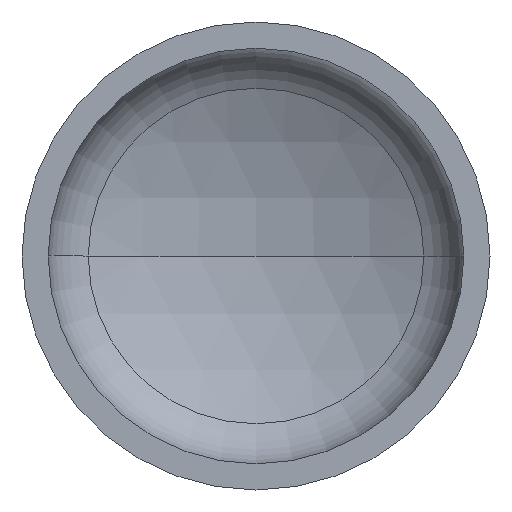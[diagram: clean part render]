
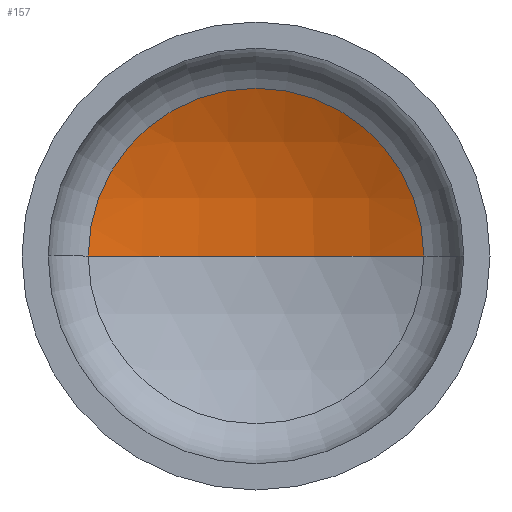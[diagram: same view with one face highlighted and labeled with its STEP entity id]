
A CAD part, front view. The second image highlights one B-rep face of the part: STEP entity #157.
In plain terms, the highlighted spherical face has radius 800 mm.
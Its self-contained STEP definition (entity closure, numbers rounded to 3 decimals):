
#18 = EDGE_LOOP ( 'NONE', ( #130, #125, #53 ) ) ;
#34 = VERTEX_POINT ( 'NONE', #357 ) ;
#53 = ORIENTED_EDGE ( 'NONE', *, *, #172, .T. ) ;
#66 = AXIS2_PLACEMENT_3D ( 'NONE', #212, #213, #250 ) ;
#71 = AXIS2_PLACEMENT_3D ( 'NONE', #232, #193, #202 ) ;
#83 = AXIS2_PLACEMENT_3D ( 'NONE', #293, #256, #207 ) ;
#114 = VERTEX_POINT ( 'NONE', #322 ) ;
#117 = AXIS2_PLACEMENT_3D ( 'NONE', #340, #331, #306 ) ;
#125 = ORIENTED_EDGE ( 'NONE', *, *, #173, .T. ) ;
#130 = ORIENTED_EDGE ( 'NONE', *, *, #174, .F. ) ;
#157 = ADVANCED_FACE ( 'NONE', ( #304 ), #245, .F. ) ;
#166 = VERTEX_POINT ( 'NONE', #200 ) ;
#171 = CIRCLE ( 'NONE', #83, 358.45 ) ;
#172 = EDGE_CURVE ( 'NONE', #166, #34, #171, .T. ) ;
#173 = EDGE_CURVE ( 'NONE', #114, #166, #239, .T. ) ;
#174 = EDGE_CURVE ( 'NONE', #114, #34, #348, .T. ) ;
#193 = DIRECTION ( 'NONE',  ( 0., 0., -1. ) ) ;
#200 = CARTESIAN_POINT ( 'NONE',  ( 358.45, 258.57, 0. ) ) ;
#202 = DIRECTION ( 'NONE',  ( -1., 0., 0. ) ) ;
#207 = DIRECTION ( 'NONE',  ( 1., 0., 0. ) ) ;
#212 = CARTESIAN_POINT ( 'NONE',  ( 0., -456.632, 0. ) ) ;
#213 = DIRECTION ( 'NONE',  ( 0., 0., 1. ) ) ;
#232 = CARTESIAN_POINT ( 'NONE',  ( 0., -456.632, 0. ) ) ;
#239 = CIRCLE ( 'NONE', #71, 800. ) ;
#245 = SPHERICAL_SURFACE ( 'NONE', #117, 800. ) ;
#250 = DIRECTION ( 'NONE',  ( 1., 0., 0. ) ) ;
#256 = DIRECTION ( 'NONE',  ( 0., -1., 0. ) ) ;
#293 = CARTESIAN_POINT ( 'NONE',  ( 0., 258.57, 0. ) ) ;
#304 = FACE_OUTER_BOUND ( 'NONE', #18, .T. ) ;
#306 = DIRECTION ( 'NONE',  ( -1., 0., 0. ) ) ;
#322 = CARTESIAN_POINT ( 'NONE',  ( 0., 343.368, 0. ) ) ;
#331 = DIRECTION ( 'NONE',  ( 0., 0., -1. ) ) ;
#340 = CARTESIAN_POINT ( 'NONE',  ( 0., -456.632, 0. ) ) ;
#348 = CIRCLE ( 'NONE', #66, 800. ) ;
#357 = CARTESIAN_POINT ( 'NONE',  ( -358.45, 258.57, 0. ) ) ;
